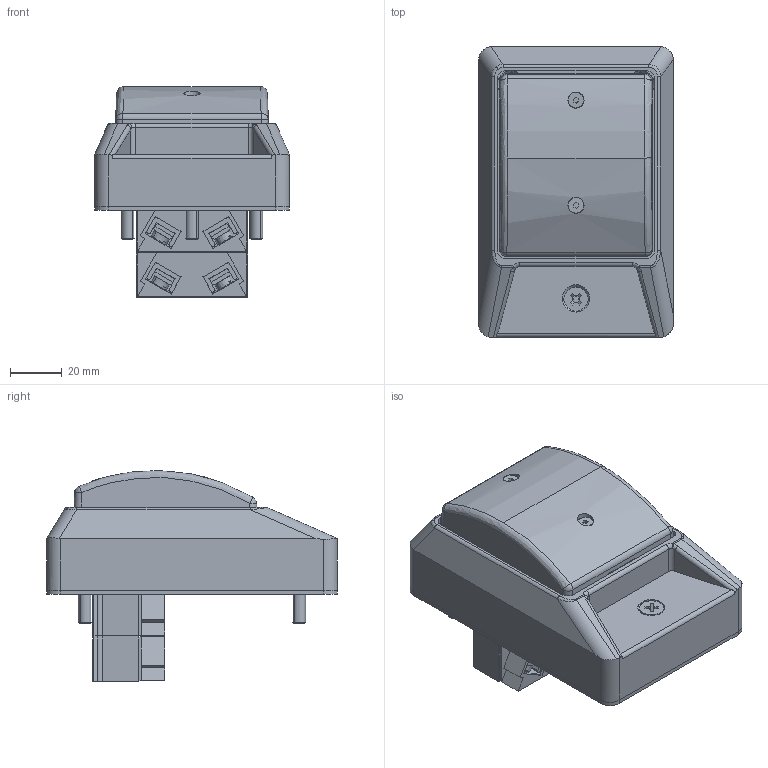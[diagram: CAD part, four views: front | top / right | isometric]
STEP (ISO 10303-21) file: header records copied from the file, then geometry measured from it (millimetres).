
FILE_DESCRIPTION (( 'STEP AP214' ), '1' );
FILE_NAME ('060APTLG.STEP', '2019-01-07T14:35:13', ( '' ), ( '' ), 'SwSTEP 2.0', 'SolidWorks 2013', '' );
FILE_SCHEMA (( 'AUTOMOTIVE_DESIGN' ));
Length unit declared in the file: millimetre
Products named in the file (1): 060APTLG
Bounding box: 75 x 112 x 81.2 mm (x, y, z)
Volume: 128131.7 mm3; surface area: 94460.7 mm2
Topology: 12 solids, 12 shells, 1970 faces, 5547 edges, 3627 vertices
Faces by surface type: cylinder 918, plane 835, bspline 90, cone 68, torus 50, sphere 9
Entity records: 90529 total; most frequent: CARTESIAN_POINT 21861, ORIENTED_EDGE 11092, DIRECTION 8331, EDGE_CURVE 5546, VERTEX_POINT 3627, LINE 3085, VECTOR 3085, AXIS2_PLACEMENT_3D 2623
